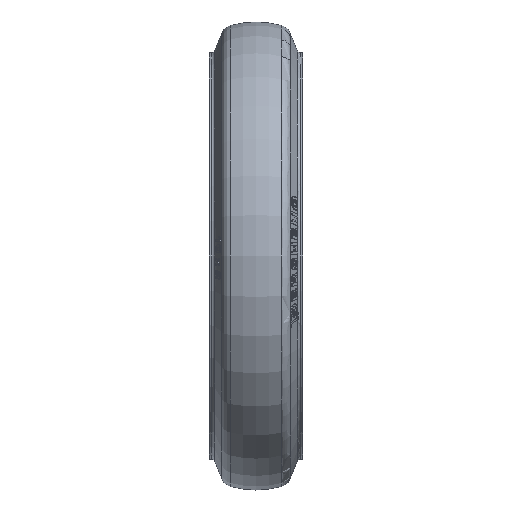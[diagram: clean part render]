
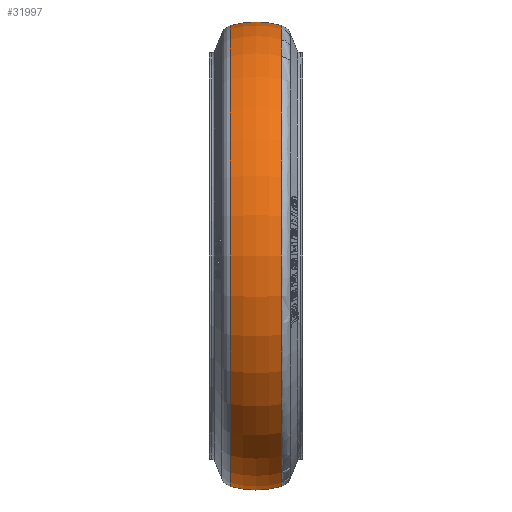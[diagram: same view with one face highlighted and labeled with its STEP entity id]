
A CAD part, front view. The second image highlights one B-rep face of the part: STEP entity #31997.
In plain terms, the highlighted toroidal (fillet/blend) face has major radius 75 mm and minor radius 50 mm.
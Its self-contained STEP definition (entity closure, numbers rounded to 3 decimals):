
#286 = CARTESIAN_POINT ( 'NONE',  ( 13.654, 0., 123.099 ) ) ;
#328 = EDGE_CURVE ( 'NONE', #16354, #18921, #31110, .T. ) ;
#815 = ORIENTED_EDGE ( 'NONE', *, *, #19454, .F. ) ;
#3818 = AXIS2_PLACEMENT_3D ( 'NONE', #11271, #19082, #5441 ) ;
#4569 = AXIS2_PLACEMENT_3D ( 'NONE', #34895, #12745, #21413 ) ;
#4780 = DIRECTION ( 'NONE',  ( -1., 0., 0. ) ) ;
#5441 = DIRECTION ( 'NONE',  ( 0., 0., -1. ) ) ;
#6819 = CARTESIAN_POINT ( 'NONE',  ( -13.654, 0., -123.099 ) ) ;
#6833 = CARTESIAN_POINT ( 'NONE',  ( 0., 0., 0. ) ) ;
#7342 = EDGE_CURVE ( 'NONE', #18921, #17800, #14580, .T. ) ;
#7438 = CARTESIAN_POINT ( 'NONE',  ( 13.654, 0., 0. ) ) ;
#7449 = CARTESIAN_POINT ( 'NONE',  ( 13.654, 0., -123.099 ) ) ;
#7773 = ORIENTED_EDGE ( 'NONE', *, *, #328, .T. ) ;
#8229 = DIRECTION ( 'NONE',  ( -1., 0., 0. ) ) ;
#9569 = AXIS2_PLACEMENT_3D ( 'NONE', #7438, #4780, #20750 ) ;
#10018 = DIRECTION ( 'NONE',  ( 0., 0., 1. ) ) ;
#10912 = CARTESIAN_POINT ( 'NONE',  ( -13.654, 0., 123.099 ) ) ;
#11271 = CARTESIAN_POINT ( 'NONE',  ( 0., 0., 75. ) ) ;
#12745 = DIRECTION ( 'NONE',  ( 0., 1., 0. ) ) ;
#12835 = ORIENTED_EDGE ( 'NONE', *, *, #7342, .T. ) ;
#13614 = CIRCLE ( 'NONE', #4569, 50. ) ;
#14580 = CIRCLE ( 'NONE', #3818, 50. ) ;
#16354 = VERTEX_POINT ( 'NONE', #7449 ) ;
#17800 = VERTEX_POINT ( 'NONE', #10912 ) ;
#18878 = DIRECTION ( 'NONE',  ( 0., 0., 1. ) ) ;
#18921 = VERTEX_POINT ( 'NONE', #286 ) ;
#19082 = DIRECTION ( 'NONE',  ( 0., -1., 0. ) ) ;
#19454 = EDGE_CURVE ( 'NONE', #27113, #17800, #23378, .T. ) ;
#20477 = FACE_OUTER_BOUND ( 'NONE', #29708, .T. ) ;
#20750 = DIRECTION ( 'NONE',  ( 0., 0., 1. ) ) ;
#21413 = DIRECTION ( 'NONE',  ( 0., 0., 1. ) ) ;
#23378 = CIRCLE ( 'NONE', #26763, 123.099 ) ;
#26763 = AXIS2_PLACEMENT_3D ( 'NONE', #32366, #8229, #18878 ) ;
#27113 = VERTEX_POINT ( 'NONE', #6819 ) ;
#28010 = EDGE_CURVE ( 'NONE', #16354, #27113, #13614, .T. ) ;
#28289 = DIRECTION ( 'NONE',  ( -1., 0., 0. ) ) ;
#28510 = TOROIDAL_SURFACE ( 'NONE', #30189, 75., 50. ) ;
#29708 = EDGE_LOOP ( 'NONE', ( #33231, #7773, #12835, #815 ) ) ;
#30189 = AXIS2_PLACEMENT_3D ( 'NONE', #6833, #28289, #10018 ) ;
#31110 = CIRCLE ( 'NONE', #9569, 123.099 ) ;
#31997 = ADVANCED_FACE ( 'NONE', ( #20477 ), #28510, .T. ) ;
#32366 = CARTESIAN_POINT ( 'NONE',  ( -13.654, 0., 0. ) ) ;
#33231 = ORIENTED_EDGE ( 'NONE', *, *, #28010, .F. ) ;
#34895 = CARTESIAN_POINT ( 'NONE',  ( 0., 0., -75. ) ) ;
